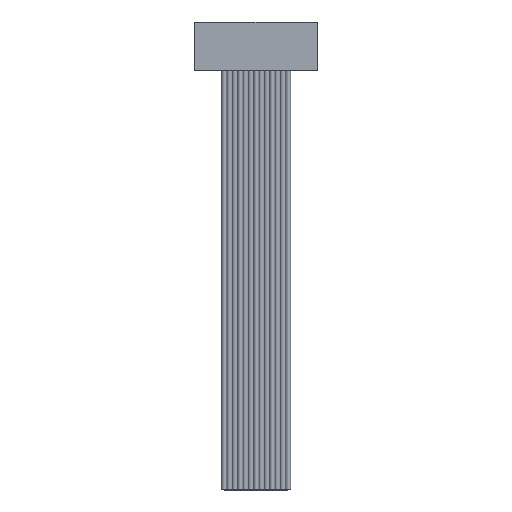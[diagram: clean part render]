
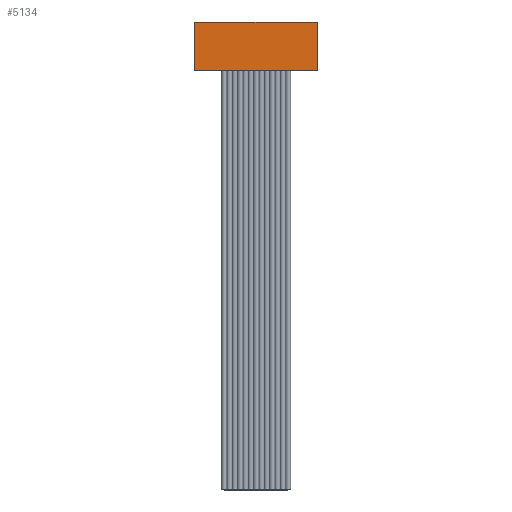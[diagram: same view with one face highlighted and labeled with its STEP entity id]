
A CAD part, front view. The second image highlights one B-rep face of the part: STEP entity #5134.
In plain terms, the highlighted planar face has unit normal (0, -1, 0).
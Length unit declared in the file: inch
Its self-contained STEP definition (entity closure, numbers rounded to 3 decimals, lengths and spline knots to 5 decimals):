
#290 = LINE ( 'NONE', #7363, #5268 ) ;
#398 = VERTEX_POINT ( 'NONE', #12975 ) ;
#722 = VERTEX_POINT ( 'NONE', #14535 ) ;
#1158 = CARTESIAN_POINT ( 'NONE',  ( 0.2875, -0.0625, -0.225 ) ) ;
#3006 = EDGE_CURVE ( 'NONE', #21672, #10667, #25835, .T. ) ;
#4377 = ORIENTED_EDGE ( 'NONE', *, *, #3006, .T. ) ;
#4588 = EDGE_CURVE ( 'NONE', #722, #398, #290, .T. ) ;
#5134 = ADVANCED_FACE ( 'NONE', ( #15891 ), #26482, .T. ) ;
#5268 = VECTOR ( 'NONE', #13778, 39.37008 ) ;
#5320 = DIRECTION ( 'NONE',  ( 0., 0., 1. ) ) ;
#5980 = CARTESIAN_POINT ( 'NONE',  ( -0.2875, -0.0625, -0.225 ) ) ;
#7220 = LINE ( 'NONE', #5980, #26096 ) ;
#7345 = CARTESIAN_POINT ( 'NONE',  ( 0.2875, -0.0625, -0.225 ) ) ;
#7363 = CARTESIAN_POINT ( 'NONE',  ( 0.2875, -0.0625, 0. ) ) ;
#8104 = CARTESIAN_POINT ( 'NONE',  ( 0.2875, -0.0625, -0.225 ) ) ;
#9559 = DIRECTION ( 'NONE',  ( 0., -1., 0. ) ) ;
#9859 = EDGE_CURVE ( 'NONE', #21672, #722, #7220, .T. ) ;
#10217 = DIRECTION ( 'NONE',  ( 0., 0., 1. ) ) ;
#10667 = VERTEX_POINT ( 'NONE', #13329 ) ;
#10988 = VECTOR ( 'NONE', #5320, 39.37008 ) ;
#11681 = LINE ( 'NONE', #7345, #10988 ) ;
#12975 = CARTESIAN_POINT ( 'NONE',  ( 0.2875, -0.0625, 0. ) ) ;
#13270 = VECTOR ( 'NONE', #20797, 39.37008 ) ;
#13329 = CARTESIAN_POINT ( 'NONE',  ( 0.2875, -0.0625, -0.225 ) ) ;
#13778 = DIRECTION ( 'NONE',  ( 1., 0., 0. ) ) ;
#14535 = CARTESIAN_POINT ( 'NONE',  ( -0.2875, -0.0625, 0. ) ) ;
#14995 = ORIENTED_EDGE ( 'NONE', *, *, #16529, .T. ) ;
#15891 = FACE_OUTER_BOUND ( 'NONE', #19201, .T. ) ;
#16529 = EDGE_CURVE ( 'NONE', #10667, #398, #11681, .T. ) ;
#18124 = DIRECTION ( 'NONE',  ( 0., 0., 1. ) ) ;
#19201 = EDGE_LOOP ( 'NONE', ( #21844, #27281, #4377, #14995 ) ) ;
#20797 = DIRECTION ( 'NONE',  ( 1., 0., 0. ) ) ;
#21033 = AXIS2_PLACEMENT_3D ( 'NONE', #1158, #9559, #18124 ) ;
#21672 = VERTEX_POINT ( 'NONE', #23227 ) ;
#21844 = ORIENTED_EDGE ( 'NONE', *, *, #4588, .F. ) ;
#23227 = CARTESIAN_POINT ( 'NONE',  ( -0.2875, -0.0625, -0.225 ) ) ;
#25835 = LINE ( 'NONE', #8104, #13270 ) ;
#26096 = VECTOR ( 'NONE', #10217, 39.37008 ) ;
#26482 = PLANE ( 'NONE',  #21033 ) ;
#27281 = ORIENTED_EDGE ( 'NONE', *, *, #9859, .F. ) ;
